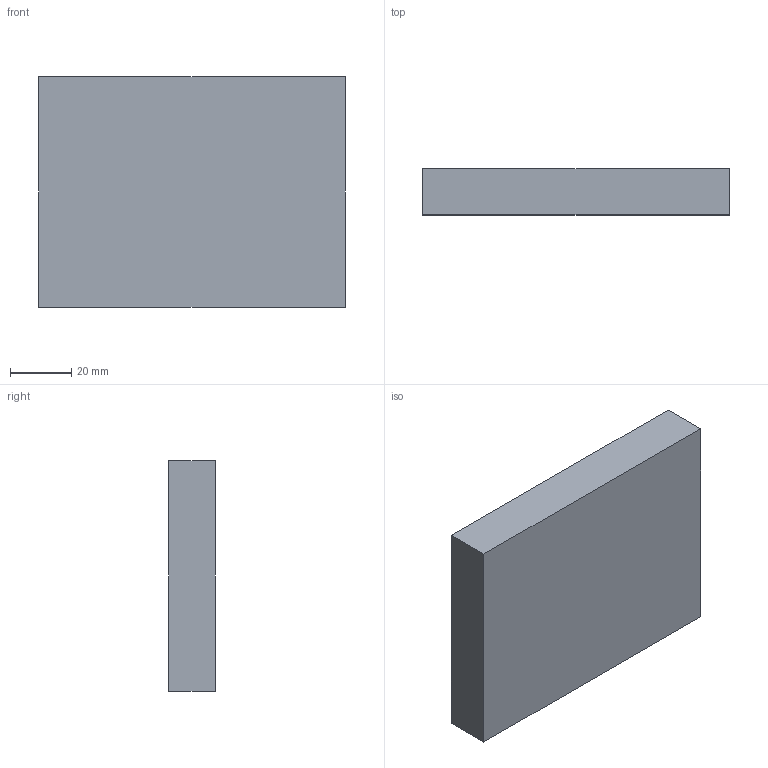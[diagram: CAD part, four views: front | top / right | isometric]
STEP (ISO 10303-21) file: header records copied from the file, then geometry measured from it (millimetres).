
FILE_DESCRIPTION(('Open CASCADE Model'),'2;1');
FILE_NAME('Open CASCADE Shape Model','2026-10-04T02:31:48',('Author'),( 'Open CASCADE'),'Open CASCADE STEP processor 8.0','Open CASCADE 8.0' ,'Unknown');
FILE_SCHEMA(('AUTOMOTIVE_DESIGN { 1 0 10303 214 1 1 1 1 }'));
Length unit declared in the file: millimetre
Products named in the file (1): Open CASCADE STEP translator 8.0 424
Bounding box: 100 x 15 x 75 mm (x, y, z)
Volume: 112500 mm3; surface area: 20250 mm2
Topology: 1 solids, 1 shells, 6 faces, 12 edges, 8 vertices
Faces by surface type: plane 6
Entity records: 322 total; most frequent: CARTESIAN_POINT 51, DIRECTION 50, LINE 36, VECTOR 36, ORIENTED_EDGE 24, PCURVE 24, DEFINITIONAL_REPRESENTATION 24, EDGE_CURVE 12
